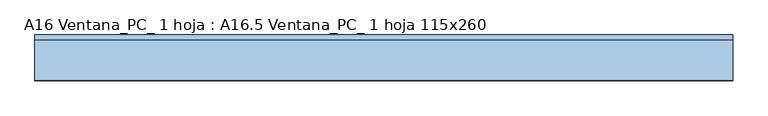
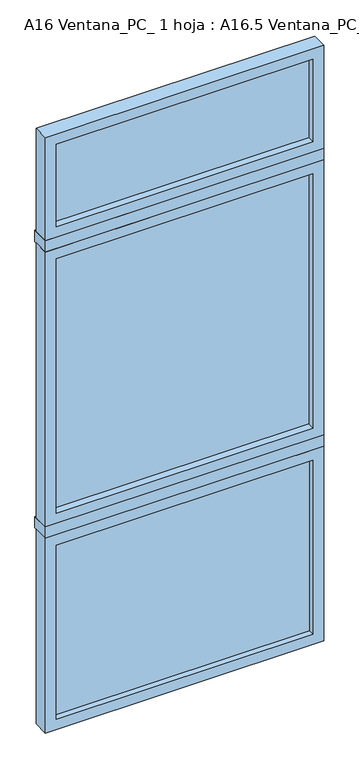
"""IFC4 building model written with IfcOpenShell, lengths in millimetres: window geometry, A16 Ventana_PC_ 1 hoja : A16.5 Ventana_PC_ 1 hoja 115x260."""

import ifcopenshell
import ifcopenshell.guid

model = None  # the IFC model being written
_history = None  # IfcOwnerHistory: only IFC2X3 demands one
_inside = {}  # id of a spatial element -> (the spatial element, [elements in it])
_under = {}  # id of a project, library or spatial element -> (it, [spatial elements below it])
_declared = {}  # id of a project -> (the project, [libraries it declares])
_typed = {}  # id of a type object -> (the type object, [elements of that type])
_made_of = {}  # id of a material, layer set ... -> (it, [elements and type objects made of it])


def new_model(schema):
    """Start an empty IFC model of exactly this schema.

    Asked for "IFC4X3", IfcOpenShell would pick the latest addendum, in which some entities
    have other attributes; the version numbers below select the first issue.
    IFC2X3 requires an IfcOwnerHistory on every rooted entity: one is made here for all.
    """
    global model, _history
    if schema == "IFC4X3":
        model = ifcopenshell.file(schema_version=(4, 3, 0, 0))
    else:
        model = ifcopenshell.file(schema=schema)
    _inside.clear()
    _under.clear()
    _declared.clear()
    _typed.clear()
    _made_of.clear()
    _history = None
    if model.schema == "IFC2X3":
        org = make("IfcOrganization", Name="unknown")
        user = make(
            "IfcPersonAndOrganization",
            ThePerson=make("IfcPerson", FamilyName="unknown"),
            TheOrganization=org,
        )
        app = make(
            "IfcApplication",
            ApplicationDeveloper=org,
            Version="unknown",
            ApplicationFullName="unknown",
            ApplicationIdentifier="unknown",
        )
        _history = make(
            "IfcOwnerHistory",
            OwningUser=user,
            OwningApplication=app,
            ChangeAction="ADDED",
            CreationDate=0,
        )
    return model


def make(cls, **values):
    """One entity of the class cls with the attributes given. An attribute that is None is left unset."""
    return model.create_entity(
        cls, **{name: value for name, value in values.items() if value is not None}
    )


def rooted(cls, **values):
    """An entity with a GlobalId (a new one), such as an element, a storey or a relation."""
    return make(cls, GlobalId=ifcopenshell.guid.new(), OwnerHistory=_history, **values)


def si_unit(unit_type, name, prefix=None):
    """IfcSIUnit, for example si_unit("LENGTHUNIT", "METRE", prefix="MILLI")."""
    return make("IfcSIUnit", UnitType=unit_type, Prefix=prefix, Name=name)


def assignment(units):
    """IfcUnitAssignment: the units of a project."""
    return None if units is None else make("IfcUnitAssignment", Units=units)


def point(xyz):
    """IfcCartesianPoint."""
    return None if xyz is None else make("IfcCartesianPoint", Coordinates=xyz)


def direction(xyz):
    """IfcDirection."""
    return None if xyz is None else make("IfcDirection", DirectionRatios=xyz)


def frame(location, z_axis=None, x_axis=None):
    """IfcAxis2Placement3D, a coordinate frame: its origin and axes. An axis left out is left unset."""
    return make(
        "IfcAxis2Placement3D",
        Location=point(location),
        Axis=direction(z_axis),
        RefDirection=direction(x_axis),
    )


def origin():
    """The frame at (0, 0, 0) with its axes left unset."""
    return frame((0.0, 0.0, 0.0))


def place(relative_to, where):
    """IfcLocalPlacement: puts the frame where relative to a parent placement (None: the world)."""
    return make(
        "IfcLocalPlacement", PlacementRelTo=relative_to, RelativePlacement=where
    )


def context(
    kind, dimensions, precision=None, world=None, true_north=None, identifier=None
):
    """IfcGeometricRepresentationContext, for example the 3D "Model" context."""
    return make(
        "IfcGeometricRepresentationContext",
        ContextIdentifier=identifier,
        ContextType=kind,
        CoordinateSpaceDimension=dimensions,
        Precision=precision,
        WorldCoordinateSystem=world,
        TrueNorth=true_north,
    )


def project(units=None, contexts=None):
    """IfcProject with its units and contexts."""
    return rooted(
        "IfcProject",
        Name="project",
        RepresentationContexts=contexts,
        UnitsInContext=assignment(units),
    )


def spatial(cls, under=None, at=None, **own):
    """A site, building, storey or space (cls), placed at a placement, below another one or the project."""
    s = rooted(cls, ObjectPlacement=at, **own)
    if under is not None:
        _under.setdefault(under.id(), (under, []))[1].append(s)
    return s


def polyline(points):
    """IfcPolyline through the points."""
    return make("IfcPolyline", Points=[point(p) for p in points])


def outline(outer, holes=None, kind="AREA"):
    """IfcArbitraryClosedProfileDef: a profile drawn as a closed curve; with holes, ...WithVoids."""
    if holes is None:
        return make("IfcArbitraryClosedProfileDef", ProfileType=kind, OuterCurve=outer)
    return make(
        "IfcArbitraryProfileDefWithVoids",
        ProfileType=kind,
        OuterCurve=outer,
        InnerCurves=holes,
    )


def extrude(swept, where, along, depth):
    """IfcExtrudedAreaSolid: the profile swept, set in the frame where, extruded along a direction by depth."""
    return make(
        "IfcExtrudedAreaSolid",
        SweptArea=swept,
        Position=where,
        ExtrudedDirection=direction(along),
        Depth=depth,
    )


def shape(context_of_items, identifier, shape_type, items):
    """IfcShapeRepresentation: the items that make up one representation, for example the "Body"."""
    return make(
        "IfcShapeRepresentation",
        ContextOfItems=context_of_items,
        RepresentationIdentifier=identifier,
        RepresentationType=shape_type,
        Items=items,
    )


def source(mapping_origin, context_of_items, identifier, shape_type, items):
    """IfcRepresentationMap: a shape defined once, which mapped items show again and again."""
    return make(
        "IfcRepresentationMap",
        MappingOrigin=mapping_origin,
        MappedRepresentation=shape(context_of_items, identifier, shape_type, items),
    )


def transform(
    local_origin,
    x_axis=None,
    y_axis=None,
    z_axis=None,
    scale=None,
    scale2=None,
    scale3=None,
    uniform=True,
):
    """IfcCartesianTransformationOperator3D, or its non-uniform kind. x_axis, y_axis, z_axis: its Axis1, 2, 3."""
    if uniform:
        return make(
            "IfcCartesianTransformationOperator3D",
            Axis1=direction(x_axis),
            Axis2=direction(y_axis),
            LocalOrigin=point(local_origin),
            Scale=scale,
            Axis3=direction(z_axis),
        )
    return make(
        "IfcCartesianTransformationOperator3DnonUniform",
        Axis1=direction(x_axis),
        Axis2=direction(y_axis),
        LocalOrigin=point(local_origin),
        Scale=scale,
        Axis3=direction(z_axis),
        Scale2=scale2,
        Scale3=scale3,
    )


def mapped(mapping_source, mapping_target):
    """IfcMappedItem: shows the shape of a source again, moved by a transform."""
    return make(
        "IfcMappedItem", MappingSource=mapping_source, MappingTarget=mapping_target
    )


def made_of(thing, what):
    """Note that an element or type object is made of a material, layer set ...; save() writes the relation."""
    if what is not None:
        _made_of.setdefault(what.id(), (what, []))[1].append(thing)
    return thing


def element(
    cls,
    number,
    at=None,
    inside=None,
    cuts=None,
    type_object=None,
    material=None,
    context=None,
    identifier="Body",
    shape_type=None,
    held_by="IfcProductDefinitionShape",
    body=None,
    shapes=None,
    **own,
):
    """One element of the class cls, such as IfcWall. Its Tag is "e" and its number.

    at: its placement. inside: the storey or other place that contains it. cuts: it is an
    opening in that element (IfcRelVoidsElement). A single representation is given by context,
    identifier, shape_type and body (its items); several are given by shapes. held_by: the class
    of the entity that holds the representations. save() writes the other relations.
    """
    e = rooted(cls, Tag="e%d" % number, ObjectPlacement=at, **own)
    if body is not None:
        shapes = [shape(context, identifier, shape_type, body)]
    if shapes is not None:
        e.Representation = make(held_by, Representations=shapes)
    if inside is not None:
        _inside.setdefault(inside.id(), (inside, []))[1].append(e)
    if cuts is not None:
        rooted(
            "IfcRelVoidsElement", RelatingBuildingElement=cuts, RelatedOpeningElement=e
        )
    if type_object is not None:
        _typed.setdefault(type_object.id(), (type_object, []))[1].append(e)
    return made_of(e, material)


def aggregate(whole, parts):
    """IfcRelAggregates: a whole, such as a stair, and the parts it consists of."""
    return rooted("IfcRelAggregates", RelatingObject=whole, RelatedObjects=parts)


def save(model, path):
    """Write the relations noted so far, then the file.

    IfcRelAggregates (storeys below a building ...), IfcRelContainedInSpatialStructure (elements
    in a storey), IfcRelDefinesByType, IfcRelAssociatesMaterial and IfcRelDeclares: one each for
    every whole, place, type object, material and project.
    """
    for whole, parts in _under.values():
        aggregate(whole, parts)
    for where, things in _inside.values():
        rooted(
            "IfcRelContainedInSpatialStructure",
            RelatedElements=things,
            RelatingStructure=where,
        )
    for kind, things in _typed.values():
        rooted("IfcRelDefinesByType", RelatedObjects=things, RelatingType=kind)
    for what, things in _made_of.values():
        rooted("IfcRelAssociatesMaterial", RelatedObjects=things, RelatingMaterial=what)
    for by, libraries in _declared.values():
        rooted("IfcRelDeclares", RelatingContext=by, RelatedDefinitions=libraries)
    model.write(path)


def a16_ventana_pc_1_hoja_a16_5_ventana_pc_1_hoja_115x260_d630623b(model_context):
    return source(origin(), model_context, "Body", "SweptSolid", [
        extrude(outline(polyline([(530.0, 37.5), (-530.0, 37.5), (-530.0, 53.5), (530.0, 53.5), (530.0, 37.5)])), frame((0.0, 0.0, 45.0), z_axis=(0.0, 0.0, 1.0), x_axis=(1.0, 0.0, 0.0)), (0.0, 0.0, 1.0), 760.0),
        extrude(outline(polyline([(530.0, 42.5), (-530.0, 42.5), (-530.0, 48.5), (530.0, 48.5), (530.0, 42.5)])), frame((0.0, 0.0, 2195.0), z_axis=(0.0, 0.0, 1.0), x_axis=(1.0, 0.0, 0.0)), (0.0, 0.0, 1.0), 360.0),
        extrude(outline(polyline([(530.0, 42.5), (-530.0, 42.5), (-530.0, 48.5), (530.0, 48.5), (530.0, 42.5)])), frame((0.0, 0.0, 945.0), z_axis=(0.0, 0.0, 1.0), x_axis=(1.0, 0.0, 0.0)), (0.0, 0.0, 1.0), 1110.0),
        extrude(outline(polyline([(850.0, -575.0), (0.0, -575.0), (0.0, 575.0), (850.0, 575.0), (850.0, -575.0)]), holes=[polyline([(805.0, -530.0), (805.0, 530.0), (45.0, 530.0), (45.0, -530.0), (805.0, -530.0)])]), frame((0.0, 12.5, 0.0), z_axis=(0.0, 1.0, 0.0), x_axis=(0.0, 0.0, 1.0)), (0.0, 0.0, 1.0), 66.0),
        extrude(outline(polyline([(2600.0, -575.0), (2150.0, -575.0), (2150.0, 575.0), (2600.0, 575.0), (2600.0, -575.0)]), holes=[polyline([(2555.0, -530.0), (2555.0, 530.0), (2195.0, 530.0), (2195.0, -530.0), (2555.0, -530.0)])]), frame((0.0, 12.5, 0.0), z_axis=(0.0, 1.0, 0.0), x_axis=(0.0, 0.0, 1.0)), (0.0, 0.0, 1.0), 66.0),
        extrude(outline(polyline([(2100.0, -575.0), (900.0, -575.0), (900.0, 575.0), (2100.0, 575.0), (2100.0, -575.0)]), holes=[polyline([(2055.0, -530.0), (2055.0, 530.0), (945.0, 530.0), (945.0, -530.0), (2055.0, -530.0)])]), frame((0.0, 12.5, 0.0), z_axis=(0.0, 1.0, 0.0), x_axis=(0.0, 0.0, 1.0)), (0.0, 0.0, 1.0), 66.0),
        extrude(outline(polyline([(575.0, 12.5), (-575.0, 12.5), (-575.0, 87.5), (575.0, 87.5), (575.0, 12.5)])), frame((0.0, 0.0, 2100.0), z_axis=(0.0, 0.0, 1.0), x_axis=(1.0, 0.0, 0.0)), (0.0, 0.0, 1.0), 50.0),
        extrude(outline(polyline([(575.0, 12.5), (-575.0, 12.5), (-575.0, 87.5), (575.0, 87.5), (575.0, 12.5)])), frame((0.0, 0.0, 850.0), z_axis=(0.0, 0.0, 1.0), x_axis=(1.0, 0.0, 0.0)), (0.0, 0.0, 1.0), 50.0),
    ])


if __name__ == "__main__":
    model = new_model("IFC4")
    model_context = context("Model", 3, world=origin())
    ifc_project = project(units=[si_unit("LENGTHUNIT", "METRE", prefix="MILLI")], contexts=[model_context])
    site = spatial("IfcSite", under=ifc_project)
    building = spatial("IfcBuilding", under=site)
    placement = place(None, origin())
    a16_ventana_pc_1_hoja_a16_5_ventana_pc_1_hoja_115x260_shape = a16_ventana_pc_1_hoja_a16_5_ventana_pc_1_hoja_115x260_d630623b(model_context)
    element("IfcWindow", 1, ObjectType="A16 Ventana_PC_ 1 hoja : A16.5 Ventana_PC_ 1 hoja 115x260", at=placement, inside=building, context=model_context, shape_type="MappedRepresentation", body=[
        mapped(a16_ventana_pc_1_hoja_a16_5_ventana_pc_1_hoja_115x260_shape, transform((0.0, 0.0, 0.0), x_axis=(1.0, 0.0, 0.0), y_axis=(0.0, 1.0, 0.0), z_axis=(0.0, 0.0, 1.0))),
    ])
    save(model, "model.ifc")
